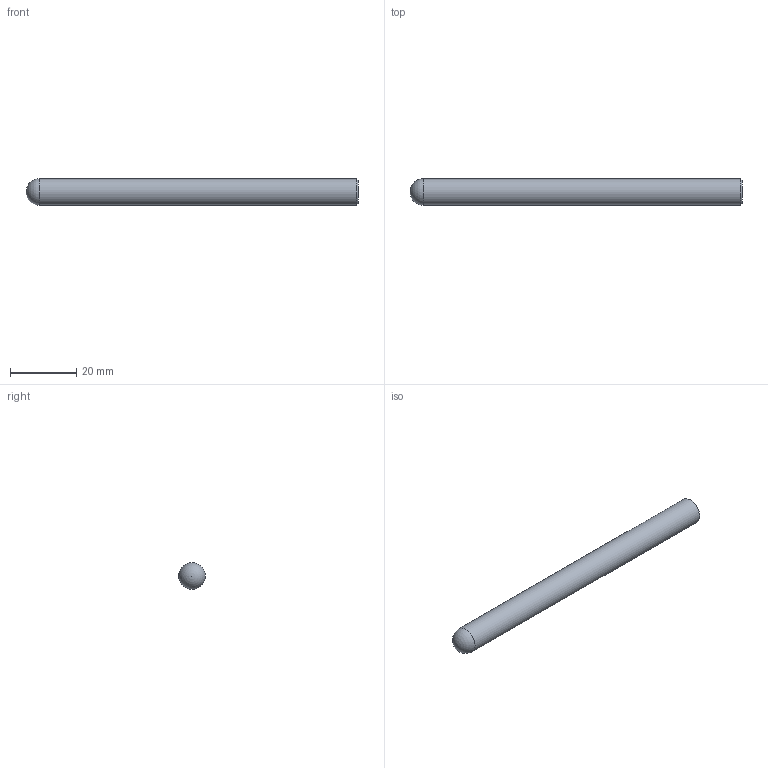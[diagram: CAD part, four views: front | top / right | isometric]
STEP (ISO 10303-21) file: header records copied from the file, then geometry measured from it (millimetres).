
FILE_DESCRIPTION(/* description */ (''),/* implementation_level */ '2;1');
FILE_NAME(/* name */ 'HSXB2080 08100.stp',/* time_stamp */ '2026-08-01T17:28:03+08:00',/* author */ (''),/* organization */ (''),/* preprocessor_version */ 'ST-DEVELOPER v16',/* originating_system */ 'SIEMENS PLM Software NX 10.0',/* authorisation */ '');
FILE_SCHEMA (('CONFIG_CONTROL_DESIGN'));
Length unit declared in the file: millimetre
Products named in the file (1): HSXB2080 08100_dxf
Bounding box: 100 x 8 x 8 mm (x, y, z)
Volume: 4957.6 mm3; surface area: 2557.4 mm2
Topology: 1 solids, 1 shells, 4 faces, 8 edges, 5 vertices
Faces by surface type: plane 1, sphere 1, cylinder 1, cone 1
Full cylindrical faces by diameter (mm): 8 x1
Entity records: 158 total; most frequent: DIRECTION 16, CARTESIAN_POINT 11, AXIS2_PLACEMENT_3D 8, PERSON_AND_ORGANIZATION 7, ORGANIZATION 7, EDGE_LOOP 6, ORIENTED_EDGE 6, DATE_AND_TIME 5
